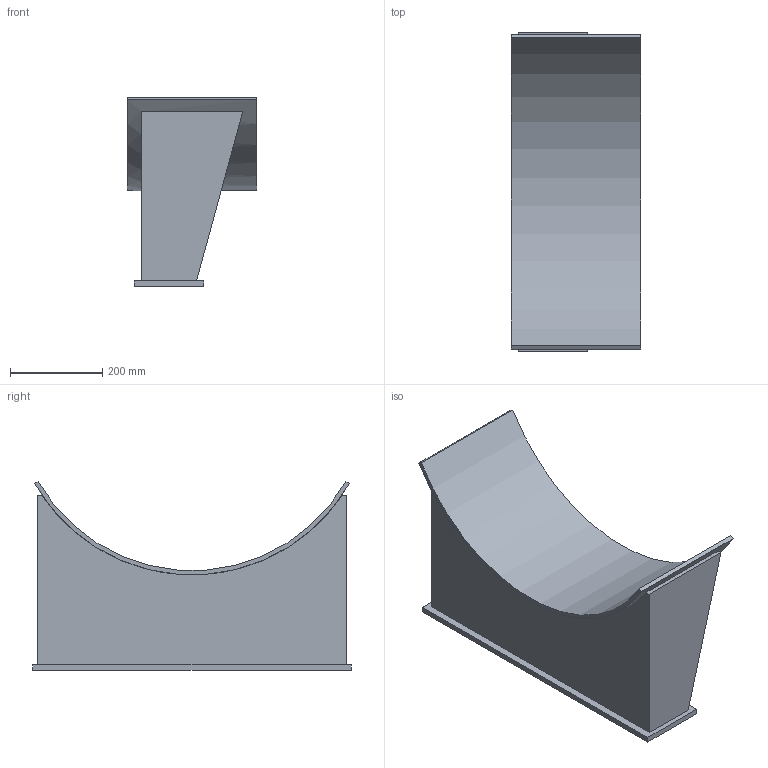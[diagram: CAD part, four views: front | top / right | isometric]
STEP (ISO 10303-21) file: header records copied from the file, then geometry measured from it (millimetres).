
FILE_DESCRIPTION(/* description */ (''),/* implementation_level */ '2;1');
FILE_NAME(/* name */ 'C:\Users\D\Documents\Inventor\HP\JPI\横置きタンクサドル\重荷重用\hc-saddle-hl_750.stp',/* time_stamp */ '2026-01-27T18:46:29+09:00',/* author */ ('D'),/* organization */ (''),/* preprocessor_version */ 'ST-DEVELOPER v18',/* originating_system */ 'Autodesk Inventor 2020',/* authorisation */ '');
FILE_SCHEMA (('AUTOMOTIVE_DESIGN { 1 0 10303 214 3 1 1 }','PROCESS_PLANNING_SCHEMA'));
Length unit declared in the file: millimetre
Products named in the file (1): 200A
Bounding box: 280 x 690 x 408.94 mm (x, y, z)
Volume: 5851183.5 mm3; surface area: 1269346.5 mm2
Topology: 1 solids, 1 shells, 24 faces, 60 edges, 40 vertices
Faces by surface type: plane 20, cylinder 4
Full cylindrical faces by diameter (mm): 23 x2
Entity records: 779 total; most frequent: CARTESIAN_POINT 127, ORIENTED_EDGE 124, DIRECTION 124, EDGE_CURVE 62, LINE 50, VECTOR 50, VERTEX_POINT 40, AXIS2_PLACEMENT_3D 37
